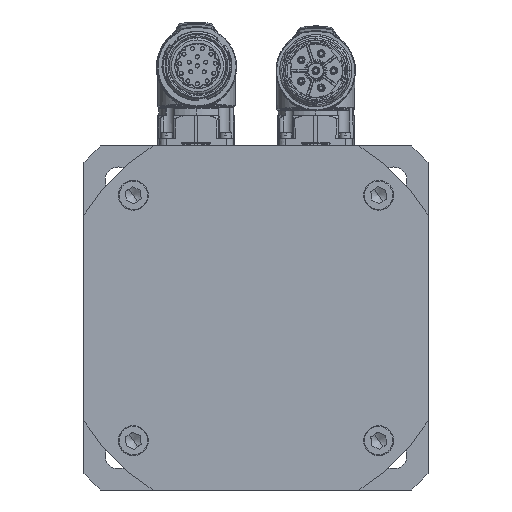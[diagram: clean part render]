
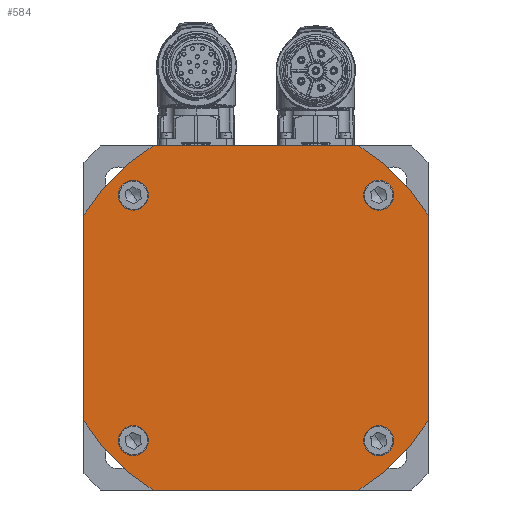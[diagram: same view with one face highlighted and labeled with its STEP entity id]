
A CAD part, left-side view. The second image highlights one B-rep face of the part: STEP entity #584.
In plain terms, the highlighted planar face has unit normal (-1, 0, 0).
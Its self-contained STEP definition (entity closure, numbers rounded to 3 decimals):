
#70=CARTESIAN_POINT('Vertex',(0.,34.391,57.5)) ;
#86=CARTESIAN_POINT('Vertex',(0.,57.5,34.391)) ;
#89=CARTESIAN_POINT('Axis2P3D Location',(0.,0.,0.)) ;
#113=CARTESIAN_POINT('Line Origine',(0.,0.,57.5)) ;
#117=CARTESIAN_POINT('Vertex',(0.,-34.391,57.5)) ;
#449=CARTESIAN_POINT('Vertex',(0.,57.5,-34.391)) ;
#452=CARTESIAN_POINT('Line Origine',(0.,57.5,0.)) ;
#464=CARTESIAN_POINT('Axis2P3D Location',(0.,0.,0.)) ;
#469=CARTESIAN_POINT('Line Origine',(0.,-57.5,0.)) ;
#473=CARTESIAN_POINT('Vertex',(0.,-57.5,34.391)) ;
#475=CARTESIAN_POINT('Vertex',(0.,-57.5,-34.391)) ;
#478=CARTESIAN_POINT('Axis2P3D Location',(0.,0.,0.)) ;
#483=CARTESIAN_POINT('Axis2P3D Location',(0.,0.,0.)) ;
#487=CARTESIAN_POINT('Vertex',(0.,34.391,-57.5)) ;
#490=CARTESIAN_POINT('Line Origine',(0.,0.,-57.5)) ;
#494=CARTESIAN_POINT('Vertex',(0.,-34.391,-57.5)) ;
#497=CARTESIAN_POINT('Axis2P3D Location',(0.,0.,0.)) ;
#512=CARTESIAN_POINT('Axis2P3D Location',(0.,41.012,41.012)) ;
#516=CARTESIAN_POINT('Vertex',(0.,36.012,41.012)) ;
#518=CARTESIAN_POINT('Vertex',(0.,46.012,41.012)) ;
#521=CARTESIAN_POINT('Axis2P3D Location',(0.,41.012,41.012)) ;
#530=CARTESIAN_POINT('Axis2P3D Location',(0.,-41.012,-41.012)) ;
#534=CARTESIAN_POINT('Vertex',(0.,-46.012,-41.012)) ;
#536=CARTESIAN_POINT('Vertex',(0.,-36.012,-41.012)) ;
#539=CARTESIAN_POINT('Axis2P3D Location',(0.,-41.012,-41.012)) ;
#548=CARTESIAN_POINT('Axis2P3D Location',(0.,-41.012,41.012)) ;
#552=CARTESIAN_POINT('Vertex',(0.,-46.012,41.012)) ;
#554=CARTESIAN_POINT('Vertex',(0.,-36.012,41.012)) ;
#557=CARTESIAN_POINT('Axis2P3D Location',(0.,-41.012,41.012)) ;
#566=CARTESIAN_POINT('Axis2P3D Location',(0.,41.012,-41.012)) ;
#570=CARTESIAN_POINT('Vertex',(0.,36.012,-41.012)) ;
#572=CARTESIAN_POINT('Vertex',(0.,46.012,-41.012)) ;
#575=CARTESIAN_POINT('Axis2P3D Location',(0.,41.012,-41.012)) ;
#90=DIRECTION('Axis2P3D Direction',(1.,0.,0.)) ;
#114=DIRECTION('Vector Direction',(0.,1.,0.)) ;
#453=DIRECTION('Vector Direction',(0.,0.,1.)) ;
#465=DIRECTION('Axis2P3D Direction',(1.,0.,0.)) ;
#466=DIRECTION('Axis2P3D XDirection',(0.,1.,0.)) ;
#470=DIRECTION('Vector Direction',(0.,0.,-1.)) ;
#479=DIRECTION('Axis2P3D Direction',(1.,0.,0.)) ;
#484=DIRECTION('Axis2P3D Direction',(1.,0.,0.)) ;
#491=DIRECTION('Vector Direction',(0.,-1.,0.)) ;
#498=DIRECTION('Axis2P3D Direction',(1.,0.,0.)) ;
#513=DIRECTION('Axis2P3D Direction',(1.,0.,0.)) ;
#522=DIRECTION('Axis2P3D Direction',(1.,0.,0.)) ;
#531=DIRECTION('Axis2P3D Direction',(1.,0.,0.)) ;
#540=DIRECTION('Axis2P3D Direction',(1.,0.,0.)) ;
#549=DIRECTION('Axis2P3D Direction',(1.,0.,0.)) ;
#558=DIRECTION('Axis2P3D Direction',(1.,0.,0.)) ;
#567=DIRECTION('Axis2P3D Direction',(1.,0.,0.)) ;
#576=DIRECTION('Axis2P3D Direction',(1.,0.,0.)) ;
#91=AXIS2_PLACEMENT_3D('Circle Axis2P3D',#89,#90,$) ;
#467=AXIS2_PLACEMENT_3D('Plane Axis2P3D',#464,#465,#466) ;
#480=AXIS2_PLACEMENT_3D('Circle Axis2P3D',#478,#479,$) ;
#485=AXIS2_PLACEMENT_3D('Circle Axis2P3D',#483,#484,$) ;
#499=AXIS2_PLACEMENT_3D('Circle Axis2P3D',#497,#498,$) ;
#514=AXIS2_PLACEMENT_3D('Circle Axis2P3D',#512,#513,$) ;
#523=AXIS2_PLACEMENT_3D('Circle Axis2P3D',#521,#522,$) ;
#532=AXIS2_PLACEMENT_3D('Circle Axis2P3D',#530,#531,$) ;
#541=AXIS2_PLACEMENT_3D('Circle Axis2P3D',#539,#540,$) ;
#550=AXIS2_PLACEMENT_3D('Circle Axis2P3D',#548,#549,$) ;
#559=AXIS2_PLACEMENT_3D('Circle Axis2P3D',#557,#558,$) ;
#568=AXIS2_PLACEMENT_3D('Circle Axis2P3D',#566,#567,$) ;
#577=AXIS2_PLACEMENT_3D('Circle Axis2P3D',#575,#576,$) ;
#503=ORIENTED_EDGE('',*,*,#477,.F.) ;
#504=ORIENTED_EDGE('',*,*,#482,.F.) ;
#505=ORIENTED_EDGE('',*,*,#119,.F.) ;
#506=ORIENTED_EDGE('',*,*,#93,.F.) ;
#507=ORIENTED_EDGE('',*,*,#456,.F.) ;
#508=ORIENTED_EDGE('',*,*,#489,.F.) ;
#509=ORIENTED_EDGE('',*,*,#496,.F.) ;
#510=ORIENTED_EDGE('',*,*,#501,.F.) ;
#527=ORIENTED_EDGE('',*,*,#520,.F.) ;
#528=ORIENTED_EDGE('',*,*,#525,.F.) ;
#545=ORIENTED_EDGE('',*,*,#538,.F.) ;
#546=ORIENTED_EDGE('',*,*,#543,.F.) ;
#563=ORIENTED_EDGE('',*,*,#556,.F.) ;
#564=ORIENTED_EDGE('',*,*,#561,.F.) ;
#581=ORIENTED_EDGE('',*,*,#574,.F.) ;
#582=ORIENTED_EDGE('',*,*,#579,.F.) ;
#529=FACE_BOUND('',#526,.T.) ;
#547=FACE_BOUND('',#544,.T.) ;
#565=FACE_BOUND('',#562,.T.) ;
#583=FACE_BOUND('',#580,.T.) ;
#115=VECTOR('Line Direction',#114,1.) ;
#454=VECTOR('Line Direction',#453,1.) ;
#471=VECTOR('Line Direction',#470,1.) ;
#492=VECTOR('Line Direction',#491,1.) ;
#584=ADVANCED_FACE('PartBody',(#511,#529,#547,#565,#583),#468,.F.) ;
#92=CIRCLE('generated circle',#91,67.) ;
#481=CIRCLE('generated circle',#480,67.) ;
#486=CIRCLE('generated circle',#485,67.) ;
#500=CIRCLE('generated circle',#499,67.) ;
#515=CIRCLE('generated circle',#514,5.) ;
#524=CIRCLE('generated circle',#523,5.) ;
#533=CIRCLE('generated circle',#532,5.) ;
#542=CIRCLE('generated circle',#541,5.) ;
#551=CIRCLE('generated circle',#550,5.) ;
#560=CIRCLE('generated circle',#559,5.) ;
#569=CIRCLE('generated circle',#568,5.) ;
#578=CIRCLE('generated circle',#577,5.) ;
#93=EDGE_CURVE('',#87,#71,#92,.T.) ;
#119=EDGE_CURVE('',#71,#118,#116,.F.) ;
#456=EDGE_CURVE('',#450,#87,#455,.T.) ;
#477=EDGE_CURVE('',#474,#476,#472,.T.) ;
#482=EDGE_CURVE('',#118,#474,#481,.T.) ;
#489=EDGE_CURVE('',#488,#450,#486,.T.) ;
#496=EDGE_CURVE('',#495,#488,#493,.F.) ;
#501=EDGE_CURVE('',#476,#495,#500,.T.) ;
#520=EDGE_CURVE('',#517,#519,#515,.F.) ;
#525=EDGE_CURVE('',#519,#517,#524,.F.) ;
#538=EDGE_CURVE('',#535,#537,#533,.F.) ;
#543=EDGE_CURVE('',#537,#535,#542,.F.) ;
#556=EDGE_CURVE('',#553,#555,#551,.F.) ;
#561=EDGE_CURVE('',#555,#553,#560,.F.) ;
#574=EDGE_CURVE('',#571,#573,#569,.F.) ;
#579=EDGE_CURVE('',#573,#571,#578,.F.) ;
#502=EDGE_LOOP('',(#503,#504,#505,#506,#507,#508,#509,#510)) ;
#526=EDGE_LOOP('',(#527,#528)) ;
#544=EDGE_LOOP('',(#545,#546)) ;
#562=EDGE_LOOP('',(#563,#564)) ;
#580=EDGE_LOOP('',(#581,#582)) ;
#511=FACE_OUTER_BOUND('',#502,.T.) ;
#116=LINE('Line',#113,#115) ;
#455=LINE('Line',#452,#454) ;
#472=LINE('Line',#469,#471) ;
#493=LINE('Line',#490,#492) ;
#468=PLANE('Plane',#467) ;
#71=VERTEX_POINT('',#70) ;
#87=VERTEX_POINT('',#86) ;
#118=VERTEX_POINT('',#117) ;
#450=VERTEX_POINT('',#449) ;
#474=VERTEX_POINT('',#473) ;
#476=VERTEX_POINT('',#475) ;
#488=VERTEX_POINT('',#487) ;
#495=VERTEX_POINT('',#494) ;
#517=VERTEX_POINT('',#516) ;
#519=VERTEX_POINT('',#518) ;
#535=VERTEX_POINT('',#534) ;
#537=VERTEX_POINT('',#536) ;
#553=VERTEX_POINT('',#552) ;
#555=VERTEX_POINT('',#554) ;
#571=VERTEX_POINT('',#570) ;
#573=VERTEX_POINT('',#572) ;
